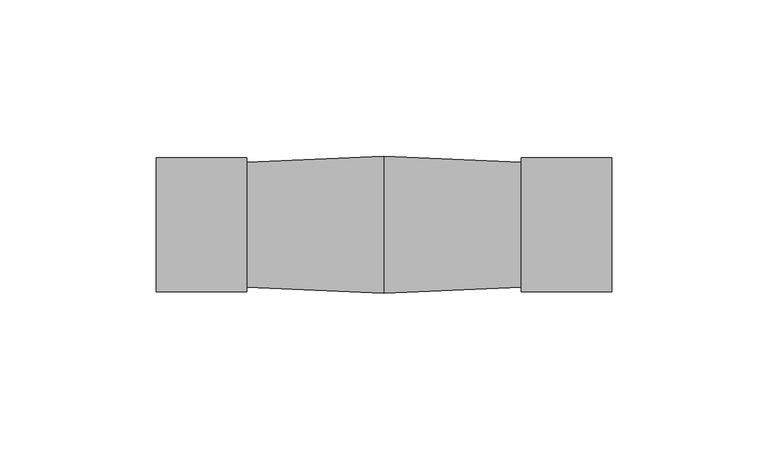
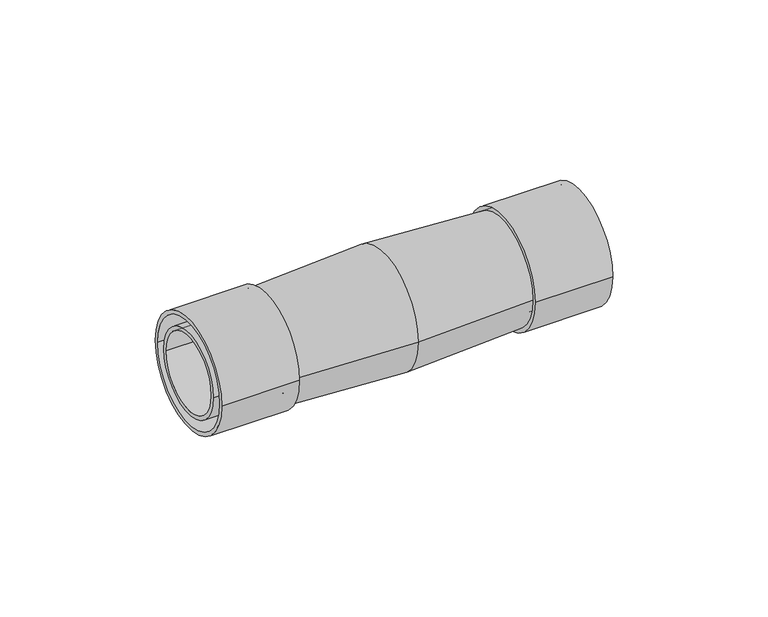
"""IFC4 building model written with IfcOpenShell, lengths in millimetres: cable carrier fitting geometry, КНС_МуфтаДляАрмированныхТруб_IP65_DKC : Коробка."""

import ifcopenshell
import ifcopenshell.guid

model = None  # the IFC model being written
_history = None  # IfcOwnerHistory: only IFC2X3 demands one
_inside = {}  # id of a spatial element -> (the spatial element, [elements in it])
_under = {}  # id of a project, library or spatial element -> (it, [spatial elements below it])
_declared = {}  # id of a project -> (the project, [libraries it declares])
_typed = {}  # id of a type object -> (the type object, [elements of that type])
_made_of = {}  # id of a material, layer set ... -> (it, [elements and type objects made of it])


def new_model(schema):
    """Start an empty IFC model of exactly this schema.

    Asked for "IFC4X3", IfcOpenShell would pick the latest addendum, in which some entities
    have other attributes; the version numbers below select the first issue.
    IFC2X3 requires an IfcOwnerHistory on every rooted entity: one is made here for all.
    """
    global model, _history
    if schema == "IFC4X3":
        model = ifcopenshell.file(schema_version=(4, 3, 0, 0))
    else:
        model = ifcopenshell.file(schema=schema)
    _inside.clear()
    _under.clear()
    _declared.clear()
    _typed.clear()
    _made_of.clear()
    _history = None
    if model.schema == "IFC2X3":
        org = make("IfcOrganization", Name="unknown")
        user = make(
            "IfcPersonAndOrganization",
            ThePerson=make("IfcPerson", FamilyName="unknown"),
            TheOrganization=org,
        )
        app = make(
            "IfcApplication",
            ApplicationDeveloper=org,
            Version="unknown",
            ApplicationFullName="unknown",
            ApplicationIdentifier="unknown",
        )
        _history = make(
            "IfcOwnerHistory",
            OwningUser=user,
            OwningApplication=app,
            ChangeAction="ADDED",
            CreationDate=0,
        )
    return model


def make(cls, **values):
    """One entity of the class cls with the attributes given. An attribute that is None is left unset."""
    return model.create_entity(
        cls, **{name: value for name, value in values.items() if value is not None}
    )


def rooted(cls, **values):
    """An entity with a GlobalId (a new one), such as an element, a storey or a relation."""
    return make(cls, GlobalId=ifcopenshell.guid.new(), OwnerHistory=_history, **values)


def si_unit(unit_type, name, prefix=None):
    """IfcSIUnit, for example si_unit("LENGTHUNIT", "METRE", prefix="MILLI")."""
    return make("IfcSIUnit", UnitType=unit_type, Prefix=prefix, Name=name)


def assignment(units):
    """IfcUnitAssignment: the units of a project."""
    return None if units is None else make("IfcUnitAssignment", Units=units)


def point(xyz):
    """IfcCartesianPoint."""
    return None if xyz is None else make("IfcCartesianPoint", Coordinates=xyz)


def direction(xyz):
    """IfcDirection."""
    return None if xyz is None else make("IfcDirection", DirectionRatios=xyz)


def frame(location, z_axis=None, x_axis=None):
    """IfcAxis2Placement3D, a coordinate frame: its origin and axes. An axis left out is left unset."""
    return make(
        "IfcAxis2Placement3D",
        Location=point(location),
        Axis=direction(z_axis),
        RefDirection=direction(x_axis),
    )


def frame_2d(location, x_axis=None):
    """IfcAxis2Placement2D, a coordinate frame in the plane: its origin and x axis."""
    return make(
        "IfcAxis2Placement2D", Location=point(location), RefDirection=direction(x_axis)
    )


def origin():
    """The frame at (0, 0, 0) with its axes left unset."""
    return frame((0.0, 0.0, 0.0))


def origin_2d():
    """The frame at (0, 0) in the plane with its x axis left unset."""
    return frame_2d((0.0, 0.0))


def place(relative_to, where):
    """IfcLocalPlacement: puts the frame where relative to a parent placement (None: the world)."""
    return make(
        "IfcLocalPlacement", PlacementRelTo=relative_to, RelativePlacement=where
    )


def context(
    kind, dimensions, precision=None, world=None, true_north=None, identifier=None
):
    """IfcGeometricRepresentationContext, for example the 3D "Model" context."""
    return make(
        "IfcGeometricRepresentationContext",
        ContextIdentifier=identifier,
        ContextType=kind,
        CoordinateSpaceDimension=dimensions,
        Precision=precision,
        WorldCoordinateSystem=world,
        TrueNorth=true_north,
    )


def project(units=None, contexts=None):
    """IfcProject with its units and contexts."""
    return rooted(
        "IfcProject",
        Name="project",
        RepresentationContexts=contexts,
        UnitsInContext=assignment(units),
    )


def spatial(cls, under=None, at=None, **own):
    """A site, building, storey or space (cls), placed at a placement, below another one or the project."""
    s = rooted(cls, ObjectPlacement=at, **own)
    if under is not None:
        _under.setdefault(under.id(), (under, []))[1].append(s)
    return s


def polyline(points):
    """IfcPolyline through the points."""
    return make("IfcPolyline", Points=[point(p) for p in points])


def circle_curve(where, radius):
    """IfcCircle in the frame where."""
    return make("IfcCircle", Position=where, Radius=radius)


def trimmed(basis, trim1, trim2, sense, master):
    """IfcTrimmedCurve: the piece of a basis curve between two trims."""
    return make(
        "IfcTrimmedCurve",
        BasisCurve=basis,
        Trim1=trim1,
        Trim2=trim2,
        SenseAgreement=sense,
        MasterRepresentation=master,
    )


def segment(curve, same_sense, transition):
    """IfcCompositeCurveSegment."""
    return make(
        "IfcCompositeCurveSegment",
        Transition=transition,
        SameSense=same_sense,
        ParentCurve=curve,
    )


def composite_curve(segments, self_intersect=None):
    """IfcCompositeCurve: segments joined end to end."""
    return make("IfcCompositeCurve", Segments=segments, SelfIntersect=self_intersect)


def outline(outer, holes=None, kind="AREA"):
    """IfcArbitraryClosedProfileDef: a profile drawn as a closed curve; with holes, ...WithVoids."""
    if holes is None:
        return make("IfcArbitraryClosedProfileDef", ProfileType=kind, OuterCurve=outer)
    return make(
        "IfcArbitraryProfileDefWithVoids",
        ProfileType=kind,
        OuterCurve=outer,
        InnerCurves=holes,
    )


def extrude(swept, where, along, depth):
    """IfcExtrudedAreaSolid: the profile swept, set in the frame where, extruded along a direction by depth."""
    return make(
        "IfcExtrudedAreaSolid",
        SweptArea=swept,
        Position=where,
        ExtrudedDirection=direction(along),
        Depth=depth,
    )


def shape(context_of_items, identifier, shape_type, items):
    """IfcShapeRepresentation: the items that make up one representation, for example the "Body"."""
    return make(
        "IfcShapeRepresentation",
        ContextOfItems=context_of_items,
        RepresentationIdentifier=identifier,
        RepresentationType=shape_type,
        Items=items,
    )


def source(mapping_origin, context_of_items, identifier, shape_type, items):
    """IfcRepresentationMap: a shape defined once, which mapped items show again and again."""
    return make(
        "IfcRepresentationMap",
        MappingOrigin=mapping_origin,
        MappedRepresentation=shape(context_of_items, identifier, shape_type, items),
    )


def transform(
    local_origin,
    x_axis=None,
    y_axis=None,
    z_axis=None,
    scale=None,
    scale2=None,
    scale3=None,
    uniform=True,
):
    """IfcCartesianTransformationOperator3D, or its non-uniform kind. x_axis, y_axis, z_axis: its Axis1, 2, 3."""
    if uniform:
        return make(
            "IfcCartesianTransformationOperator3D",
            Axis1=direction(x_axis),
            Axis2=direction(y_axis),
            LocalOrigin=point(local_origin),
            Scale=scale,
            Axis3=direction(z_axis),
        )
    return make(
        "IfcCartesianTransformationOperator3DnonUniform",
        Axis1=direction(x_axis),
        Axis2=direction(y_axis),
        LocalOrigin=point(local_origin),
        Scale=scale,
        Axis3=direction(z_axis),
        Scale2=scale2,
        Scale3=scale3,
    )


def mapped(mapping_source, mapping_target):
    """IfcMappedItem: shows the shape of a source again, moved by a transform."""
    return make(
        "IfcMappedItem", MappingSource=mapping_source, MappingTarget=mapping_target
    )


def made_of(thing, what):
    """Note that an element or type object is made of a material, layer set ...; save() writes the relation."""
    if what is not None:
        _made_of.setdefault(what.id(), (what, []))[1].append(thing)
    return thing


def element(
    cls,
    number,
    at=None,
    inside=None,
    cuts=None,
    type_object=None,
    material=None,
    context=None,
    identifier="Body",
    shape_type=None,
    held_by="IfcProductDefinitionShape",
    body=None,
    shapes=None,
    **own,
):
    """One element of the class cls, such as IfcWall. Its Tag is "e" and its number.

    at: its placement. inside: the storey or other place that contains it. cuts: it is an
    opening in that element (IfcRelVoidsElement). A single representation is given by context,
    identifier, shape_type and body (its items); several are given by shapes. held_by: the class
    of the entity that holds the representations. save() writes the other relations.
    """
    e = rooted(cls, Tag="e%d" % number, ObjectPlacement=at, **own)
    if body is not None:
        shapes = [shape(context, identifier, shape_type, body)]
    if shapes is not None:
        e.Representation = make(held_by, Representations=shapes)
    if inside is not None:
        _inside.setdefault(inside.id(), (inside, []))[1].append(e)
    if cuts is not None:
        rooted(
            "IfcRelVoidsElement", RelatingBuildingElement=cuts, RelatedOpeningElement=e
        )
    if type_object is not None:
        _typed.setdefault(type_object.id(), (type_object, []))[1].append(e)
    return made_of(e, material)


def aggregate(whole, parts):
    """IfcRelAggregates: a whole, such as a stair, and the parts it consists of."""
    return rooted("IfcRelAggregates", RelatingObject=whole, RelatedObjects=parts)


def save(model, path):
    """Write the relations noted so far, then the file.

    IfcRelAggregates (storeys below a building ...), IfcRelContainedInSpatialStructure (elements
    in a storey), IfcRelDefinesByType, IfcRelAssociatesMaterial and IfcRelDeclares: one each for
    every whole, place, type object, material and project.
    """
    for whole, parts in _under.values():
        aggregate(whole, parts)
    for where, things in _inside.values():
        rooted(
            "IfcRelContainedInSpatialStructure",
            RelatedElements=things,
            RelatingStructure=where,
        )
    for kind, things in _typed.values():
        rooted("IfcRelDefinesByType", RelatedObjects=things, RelatingType=kind)
    for what, things in _made_of.values():
        rooted("IfcRelAssociatesMaterial", RelatedObjects=things, RelatingMaterial=what)
    for by, libraries in _declared.values():
        rooted("IfcRelDeclares", RelatingContext=by, RelatedDefinitions=libraries)
    model.write(path)


def plane_surface(at):
    """IfcPlane: the flat surface through the origin of the frame at, square to its z axis."""
    return make("IfcPlane", Position=at)


def revolved_surface(curve, axis_point, axis_direction):
    """IfcSurfaceOfRevolution: the curve turned about the line through axis_point along axis_direction."""
    return make(
        "IfcSurfaceOfRevolution",
        SweptCurve=make("IfcArbitraryOpenProfileDef", ProfileType="CURVE", Curve=curve),
        AxisPosition=make("IfcAxis1Placement", Location=point(axis_point), Axis=direction(axis_direction)),
    )


def advanced_brep(points, edges, surfaces, faces):
    """IfcAdvancedBrep: a solid bounded by faces that lie on surfaces and meet in shared edges.

    An edge is (start, end): straight between two places in points (the first is 0);
    or (start, end, curve); or (start, end, curve, False) where it runs against its curve.
    A face is (place in surfaces, loops), or (place, loops, False) where it looks against
    its surface's normal. A loop lists edges by number (the first is 1), with a minus sign
    where the edge is run from its end to its start. The first loop is the outer one.
    """
    corners = [point(p) for p in points]
    vertices = [make("IfcVertexPoint", VertexGeometry=c) for c in corners]
    made = []
    for start, end, *more in edges:
        made.append(
            make(
                "IfcEdgeCurve",
                EdgeStart=vertices[start],
                EdgeEnd=vertices[end],
                EdgeGeometry=more[0] if more else make("IfcPolyline", Points=[corners[start], corners[end]]),
                SameSense=more[1] if len(more) > 1 else True,
            )
        )
    hull = []
    for where, loops, *sense in faces:
        bounds = []
        for j, loop in enumerate(loops):
            ring = [make("IfcOrientedEdge", EdgeElement=made[abs(k) - 1], Orientation=k > 0) for k in loop]
            bounds.append(
                make(
                    "IfcFaceOuterBound" if j == 0 else "IfcFaceBound",
                    Bound=make("IfcEdgeLoop", EdgeList=ring),
                    Orientation=True,
                )
            )
        hull.append(make("IfcAdvancedFace", Bounds=bounds, FaceSurface=surfaces[where], SameSense=sense[0] if sense else True))
    return make("IfcAdvancedBrep", Outer=make("IfcClosedShell", CfsFaces=hull))


def cable_carrier_fitting_e6c2af0f(model_context):
    return source(origin(), model_context, "Body", "SolidModel", [
        advanced_brep(
        [(-44.0, -20.0, 0.0), (-44.0, 20.0, 0.0), (0.0, 22.0, 0.0), (0.0, -22.0, 0.0), (-44.0, 0.0, 0.0), (44.0, -20.0, 0.0), (44.0, 20.0, 0.0), (44.0, 0.0, 0.0)],
        [
            (0, 1, circle_curve(frame((-44.0, 0.0, 0.0), z_axis=(1.0, 0.0, 0.0), x_axis=(0.0, 1.0, 0.0)), 20.0)),
            (1, 2),
            (2, 3, circle_curve(frame((0.0, 0.0, 0.0), z_axis=(-1.0, 0.0, 0.0), x_axis=(0.0, 1.0, 0.0)), 22.0)),
            (3, 0),
            (1, 0, circle_curve(frame((-44.0, 0.0, 0.0), z_axis=(1.0, 0.0, 0.0), x_axis=(0.0, 1.0, 0.0)), 20.0)),
            (3, 2, circle_curve(frame((0.0, 0.0, 0.0), z_axis=(-1.0, 0.0, 0.0), x_axis=(0.0, 1.0, 0.0)), 22.0)),
            (4, 1),
            (0, 4),
            (5, 6, circle_curve(frame((44.0, 0.0, 0.0), z_axis=(1.0, 0.0, 0.0), x_axis=(0.0, 1.0, 0.0)), 20.0)),
            (6, 7),
            (7, 5),
            (6, 5, circle_curve(frame((44.0, 0.0, 0.0), z_axis=(1.0, 0.0, 0.0), x_axis=(0.0, 1.0, 0.0)), 20.0)),
            (2, 6),
            (5, 3),
        ],
        [
            revolved_surface(polyline([(0.0, 22.0, 0.0), (-44.0, 20.0, 0.0)]), (1524.0, 0.0, 0.0), (-1.0, 0.0, 0.0)),
            plane_surface(frame((-44.0, 0.0, 0.0), z_axis=(-1.0, 0.0, 0.0), x_axis=(0.0, 1.0, 0.0))),
            plane_surface(frame((44.0, 0.0, 0.0), z_axis=(1.0, 0.0, 0.0), x_axis=(0.0, 1.0, 0.0))),
            revolved_surface(polyline([(44.0, 20.0, 0.0), (0.0, 22.0, 0.0)]), (1524.0, 0.0, 0.0), (-1.0, 0.0, 0.0)),
        ],
        [
            (0, [[1, 2, 3, 4]]),
            (0, [[5, -4, 6, -2]]),
            (1, [[7, -1, 8]]),
            (1, [[-8, -5, -7]]),
            (2, [[9, 10, 11]]),
            (2, [[12, -11, -10]]),
            (3, [[-3, 13, -9, 14]]),
            (3, [[-6, -14, -12, -13]]),
        ],
    ),
        extrude(outline(composite_curve([segment(trimmed(circle_curve(origin_2d(), 16.0), [point((-16.0, 0.0))], [point((16.0, 0.0))], False, "CARTESIAN"), True, "CONTINUOUS"), segment(trimmed(circle_curve(origin_2d(), 16.0), [point((16.0, 0.0))], [point((-16.0, 0.0))], False, "CARTESIAN"), True, "CONTINUOUS")], self_intersect=False), holes=[composite_curve([segment(trimmed(circle_curve(origin_2d(), 14.5), [point((-14.5, 0.0))], [point((14.5, 0.0))], True, "CARTESIAN"), True, "CONTINUOUS"), segment(trimmed(circle_curve(origin_2d(), 14.5), [point((14.5, 0.0))], [point((-14.5, 0.0))], True, "CARTESIAN"), True, "CONTINUOUS")], self_intersect=False)]), frame((-73.0, 0.0, 0.0), z_axis=(1.0, 0.0, 0.0), x_axis=(0.0, 1.0, 0.0)), (0.0, 0.0, 1.0), 29.0),
        extrude(outline(composite_curve([segment(trimmed(circle_curve(origin_2d(), 21.5), [point((-21.5, 0.0))], [point((21.5, 0.0))], False, "CARTESIAN"), True, "CONTINUOUS"), segment(trimmed(circle_curve(origin_2d(), 21.5), [point((21.5, 0.0))], [point((-21.5, 0.0))], False, "CARTESIAN"), True, "CONTINUOUS")], self_intersect=False), holes=[composite_curve([segment(trimmed(circle_curve(origin_2d(), 20.0), [point((-20.0, 0.0))], [point((20.0, 0.0))], True, "CARTESIAN"), True, "CONTINUOUS"), segment(trimmed(circle_curve(origin_2d(), 20.0), [point((20.0, 0.0))], [point((-20.0, 0.0))], True, "CARTESIAN"), True, "CONTINUOUS")], self_intersect=False)]), frame((-73.0, 0.0, 0.0), z_axis=(1.0, 0.0, 0.0), x_axis=(0.0, 1.0, 0.0)), (0.0, 0.0, 1.0), 29.0),
        extrude(outline(composite_curve([segment(trimmed(circle_curve(origin_2d(), 21.5), [point((-21.5, 0.0))], [point((21.5, 0.0))], False, "CARTESIAN"), True, "CONTINUOUS"), segment(trimmed(circle_curve(origin_2d(), 21.5), [point((21.5, 0.0))], [point((-21.5, 0.0))], False, "CARTESIAN"), True, "CONTINUOUS")], self_intersect=False), holes=[composite_curve([segment(trimmed(circle_curve(origin_2d(), 20.0), [point((-20.0, 0.0))], [point((20.0, 0.0))], True, "CARTESIAN"), True, "CONTINUOUS"), segment(trimmed(circle_curve(origin_2d(), 20.0), [point((20.0, 0.0))], [point((-20.0, 0.0))], True, "CARTESIAN"), True, "CONTINUOUS")], self_intersect=False)]), frame((44.0, 0.0, 0.0), z_axis=(1.0, 0.0, 0.0), x_axis=(0.0, 1.0, 0.0)), (0.0, 0.0, 1.0), 29.0),
        extrude(outline(composite_curve([segment(trimmed(circle_curve(origin_2d(), 16.0), [point((-16.0, 0.0))], [point((16.0, 0.0))], False, "CARTESIAN"), True, "CONTINUOUS"), segment(trimmed(circle_curve(origin_2d(), 16.0), [point((16.0, 0.0))], [point((-16.0, 0.0))], False, "CARTESIAN"), True, "CONTINUOUS")], self_intersect=False), holes=[composite_curve([segment(trimmed(circle_curve(origin_2d(), 14.5), [point((-14.5, 0.0))], [point((14.5, 0.0))], True, "CARTESIAN"), True, "CONTINUOUS"), segment(trimmed(circle_curve(origin_2d(), 14.5), [point((14.5, 0.0))], [point((-14.5, 0.0))], True, "CARTESIAN"), True, "CONTINUOUS")], self_intersect=False)]), frame((44.0, 0.0, 0.0), z_axis=(1.0, 0.0, 0.0), x_axis=(0.0, 1.0, 0.0)), (0.0, 0.0, 1.0), 29.0),
    ])


if __name__ == "__main__":
    model = new_model("IFC4")
    model_context = context("Model", 3, world=origin())
    ifc_project = project(units=[si_unit("LENGTHUNIT", "METRE", prefix="MILLI")], contexts=[model_context])
    site = spatial("IfcSite", under=ifc_project)
    building = spatial("IfcBuilding", under=site)
    placement = place(None, origin())
    cable_carrier_fitting_shape = cable_carrier_fitting_e6c2af0f(model_context)
    element("IfcCableCarrierFitting", 1, ObjectType="КНС_МуфтаДляАрмированныхТруб_IP65_DKC : Коробка", at=placement, inside=building, context=model_context, shape_type="MappedRepresentation", body=[
        mapped(cable_carrier_fitting_shape, transform((0.0, 0.0, 0.0), x_axis=(1.0, 0.0, 0.0), y_axis=(0.0, 1.0, 0.0), z_axis=(0.0, 0.0, 1.0))),
    ])
    save(model, "model.ifc")
